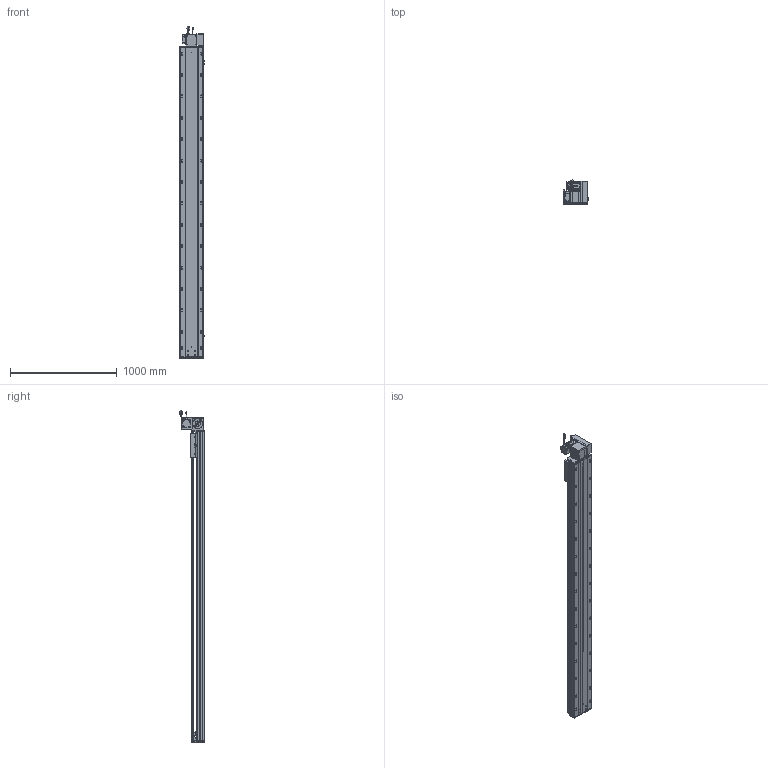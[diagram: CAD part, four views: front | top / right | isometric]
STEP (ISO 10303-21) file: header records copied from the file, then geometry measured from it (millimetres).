
FILE_DESCRIPTION (( 'STEP AP203' ), '1' );
FILE_NAME ('RY220-T-300-UR.SLDASM_2550.step', '2022-07-25T08:45:30', ( '' ), ( '' ), 'SwSTEP 2.0', 'SolidWorks 2016', '' );
FILE_SCHEMA (( 'CONFIG_CONTROL_DESIGN' ));
Length unit declared in the file: millimetre
Products named in the file (14): RY220-T-蛌殏萇儂假蚾啣(750W); RY220翋肮祭謫釱; RY220-俋离672覜茼んえ; 覜茼ん672; 怢湛750W_ECMA-CX0807ES; RY220-T-湍謫欶(鍼踢); RY220-T-300-奻裔啣_2550; 滅袉蝶18-15; RY220翋肮祭謫裔啣; RY220-T菁釱-300_2550; RY220-T-300-UR.SLDASM_2550; 110A-T-肮祭謫釱傷裔; RY220圉猾敕々湍臏賑輸; RY220-同步轮副支撑座6304×2
Assembly tree (18 placements, depth 2):
  RY220-T-300-UR.SLDASM_2550
    RY220-T菁釱-300_2550
    RY220翋肮祭謫釱
    覜茼ん672  x3
    RY220圉猾敕々湍臏賑輸
    RY220-T-300-奻裔啣_2550
    RY220-俋离672覜茼んえ
    滅袉蝶18-15  x3
    RY220翋肮祭謫裔啣  x2
    110A-T-肮祭謫釱傷裔
    怢湛750W_ECMA-CX0807ES
    RY220-T-湍謫欶(鍼踢)
    RY220-T-蛌殏萇儂假蚾啣(750W)
    RY220-同步轮副支撑座6304×2
Bounding box: 238.7 x 231.74 x 3103.27 mm (x, y, z)
Volume: 22291616.4 mm3; surface area: 6849636.2 mm2
Topology: 19 solids, 19 shells, 2936 faces, 8119 edges, 5096 vertices
Faces by surface type: cylinder 1436, plane 1069, cone 349, bspline 56, sphere 16, torus 10
Entity records: 97891 total; most frequent: CARTESIAN_POINT 27671, ORIENTED_EDGE 14522, DIRECTION 13972, EDGE_CURVE 7261, AXIS2_PLACEMENT_3D 5026, VERTEX_POINT 4720, VECTOR 3920, LINE 3920
